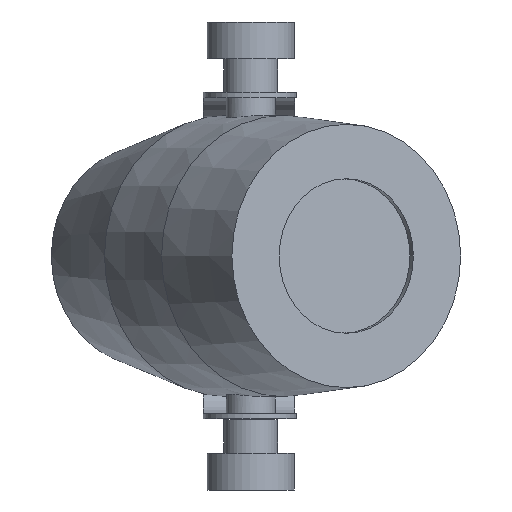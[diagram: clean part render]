
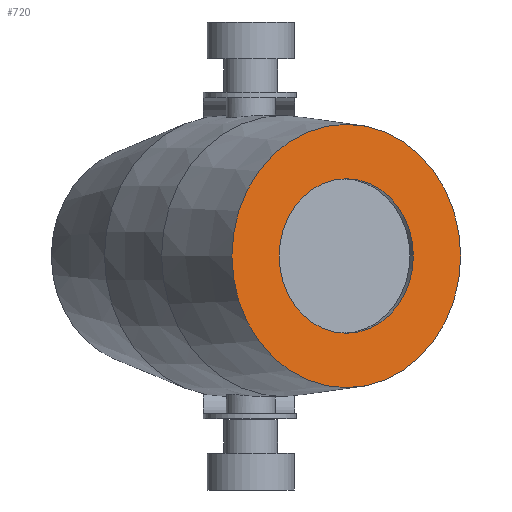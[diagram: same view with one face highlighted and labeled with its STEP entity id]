
A CAD part, front view. The second image highlights one B-rep face of the part: STEP entity #720.
In plain terms, the highlighted planar face has unit normal (0.496, -0.868, 0) as drawn and (1, -0.006, 0) by its records, which use the part's own axes.
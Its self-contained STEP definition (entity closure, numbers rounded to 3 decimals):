
#44=FACE_BOUND('',#168,.T.);
#71=PLANE('',#839);
#115=FACE_OUTER_BOUND('',#167,.T.);
#167=EDGE_LOOP('',(#652,#653));
#168=EDGE_LOOP('',(#654));
#294=CIRCLE('',#820,22.);
#305=CIRCLE('',#840,37.502);
#306=CIRCLE('',#841,37.502);
#353=VERTEX_POINT('',#1240);
#369=VERTEX_POINT('',#1356);
#370=VERTEX_POINT('',#1357);
#443=EDGE_CURVE('',#353,#353,#294,.T.);
#465=EDGE_CURVE('',#369,#370,#305,.T.);
#466=EDGE_CURVE('',#370,#369,#306,.T.);
#652=ORIENTED_EDGE('',*,*,#465,.F.);
#653=ORIENTED_EDGE('',*,*,#466,.F.);
#654=ORIENTED_EDGE('',*,*,#443,.T.);
#720=ADVANCED_FACE('',(#115,#44),#71,.F.);
#820=AXIS2_PLACEMENT_3D('',#1241,#1027,#1028);
#839=AXIS2_PLACEMENT_3D('',#1355,#1071,#1072);
#840=AXIS2_PLACEMENT_3D('',#1358,#1073,#1074);
#841=AXIS2_PLACEMENT_3D('',#1359,#1075,#1076);
#1027=DIRECTION('center_axis',(-1.,0.006,0.));
#1028=DIRECTION('ref_axis',(0.006,1.,0.));
#1071=DIRECTION('center_axis',(-1.,0.006,0.));
#1072=DIRECTION('ref_axis',(0.,0.,
1.));
#1073=DIRECTION('center_axis',(-1.,0.006,0.));
#1074=DIRECTION('ref_axis',(0.,0.,-1.));
#1075=DIRECTION('center_axis',(-1.,0.006,0.));
#1076=DIRECTION('ref_axis',(0.,0.,-1.));
#1240=CARTESIAN_POINT('',(69.401,-45.604,0.));
#1241=CARTESIAN_POINT('Origin',(69.526,-23.604,0.));
#1355=CARTESIAN_POINT('Origin',(69.526,-23.604,0.));
#1356=CARTESIAN_POINT('',(69.526,-23.604,-37.502));
#1357=CARTESIAN_POINT('',(69.74,13.897,0.));
#1358=CARTESIAN_POINT('Origin',(69.526,-23.604,0.));
#1359=CARTESIAN_POINT('Origin',(69.526,-23.604,0.));
